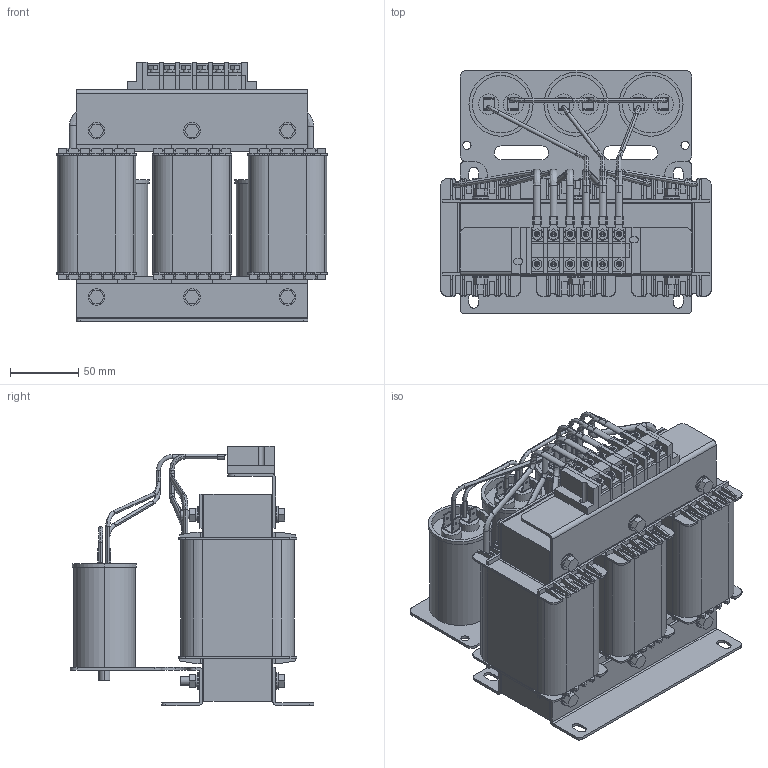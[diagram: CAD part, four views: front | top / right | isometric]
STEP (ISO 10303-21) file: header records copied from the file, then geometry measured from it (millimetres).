
FILE_DESCRIPTION (( 'STEP AP203' ), '1' );
FILE_NAME ('蔓躅漤铋 耔眢耥 翳朦蝠 _ ISINOF-5.5_13-4.STEP', '2026-07-16T09:49:50', ( '' ), ( '' ), 'SwSTEP 2.0', 'SolidWorks 2021', '' );
FILE_SCHEMA (( 'CONFIG_CONTROL_DESIGN' ));
Length unit declared in the file: inch
Products named in the file (166): 5.5KW滤波电抗器380V50Hz_97; 5.5KW滤波电抗器380V50Hz_121; 5.5KW滤波电抗器380V50Hz_16; 5.5KW滤波电抗器380V50Hz_36; 5.5KW滤波电抗器380V50Hz_147; 5.5KW滤波电抗器380V50Hz_39; 5.5KW滤波电抗器380V50Hz_134; 5.5KW滤波电抗器380V50Hz_7; 5.5KW滤波电抗器380V50Hz_72; 5.5KW滤波电抗器380V50Hz_159; 5.5KW滤波电抗器380V50Hz_50; 5.5KW滤波电抗器380V50Hz_3; 5.5KW滤波电抗器380V50Hz_28; 5.5KW滤波电抗器380V50Hz_116; 蔓躅漤铋 耔眢耥 翳朦蝠 _ ISINOF-5.5_13-4; 5.5KW滤波电抗器380V50Hz_92; 5.5KW滤波电抗器380V50Hz_61; 5.5KW滤波电抗器380V50Hz_9; 5.5KW滤波电抗器380V50Hz_14; 5.5KW滤波电抗器380V50Hz_94; 5.5KW滤波电抗器380V50Hz_8; 5.5KW滤波电抗器380V50Hz_46; 5.5KW滤波电抗器380V50Hz_1; 5.5KW滤波电抗器380V50Hz_144; 5.5KW滤波电抗器380V50Hz_124; 5.5KW滤波电抗器380V50Hz_115; 5.5KW滤波电抗器380V50Hz_103; 5.5KW滤波电抗器380V50Hz_100; 5.5KW滤波电抗器380V50Hz_143; 5.5KW滤波电抗器380V50Hz_52; 5.5KW滤波电抗器380V50Hz_12; 5.5KW滤波电抗器380V50Hz_91; 5.5KW滤波电抗器380V50Hz_98; 5.5KW滤波电抗器380V50Hz_51; 5.5KW滤波电抗器380V50Hz_153; 5.5KW滤波电抗器380V50Hz_74; 5.5KW滤波电抗器380V50Hz_99; 5.5KW滤波电抗器380V50Hz_15; 5.5KW滤波电抗器380V50Hz_48; 5.5KW滤波电抗器380V50Hz_81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
Assembly tree (165 placements, depth 2):
  蔓躅漤铋 耔眢耥 翳朦蝠 _ ISINOF-5.5_13-4
    5.5KW滤波电抗器380V50Hz_107
    5.5KW滤波电抗器380V50Hz_112
    5.5KW滤波电抗器380V50Hz_140
    5.5KW滤波电抗器380V50Hz_54
    5.5KW滤波电抗器380V50Hz_164
    5.5KW滤波电抗器380V50Hz_2
    5.5KW滤波电抗器380V50Hz_124
    5.5KW滤波电抗器380V50Hz_135
    5.5KW滤波电抗器380V50Hz_158
    5.5KW滤波电抗器380V50Hz_40
    5.5KW滤波电抗器380V50Hz_142
    5.5KW滤波电抗器380V50Hz_76
    5.5KW滤波电抗器380V50Hz_38
    5.5KW滤波电抗器380V50Hz_75
    5.5KW滤波电抗器380V50Hz_130
    5.5KW滤波电抗器380V50Hz_74
    5.5KW滤波电抗器380V50Hz_80
    5.5KW滤波电抗器380V50Hz_96
    5.5KW滤波电抗器380V50Hz_20
    5.5KW滤波电抗器380V50Hz_77
    5.5KW滤波电抗器380V50Hz_79
    5.5KW滤波电抗器380V50Hz_27
    5.5KW滤波电抗器380V50Hz_98
    5.5KW滤波电抗器380V50Hz_70
    5.5KW滤波电抗器380V50Hz_91
    5.5KW滤波电抗器380V50Hz_83
    5.5KW滤波电抗器380V50Hz_128
    5.5KW滤波电抗器380V50Hz_57
    5.5KW滤波电抗器380V50Hz_45
    5.5KW滤波电抗器380V50Hz_24
    5.5KW滤波电抗器380V50Hz_95
    5.5KW滤波电抗器380V50Hz_35
    5.5KW滤波电抗器380V50Hz_127
    5.5KW滤波电抗器380V50Hz_120
    5.5KW滤波电抗器380V50Hz_134
    5.5KW滤波电抗器380V50Hz_14
    5.5KW滤波电抗器380V50Hz
    5.5KW滤波电抗器380V50Hz_41
    5.5KW滤波电抗器380V50Hz_147
    5.5KW滤波电抗器380V50Hz_137
    5.5KW滤波电抗器380V50Hz_86
    5.5KW滤波电抗器380V50Hz_87
    5.5KW滤波电抗器380V50Hz_92
    5.5KW滤波电抗器380V50Hz_105
    5.5KW滤波电抗器380V50Hz_43
    5.5KW滤波电抗器380V50Hz_110
    5.5KW滤波电抗器380V50Hz_126
    5.5KW滤波电抗器380V50Hz_160
    5.5KW滤波电抗器380V50Hz_11
    5.5KW滤波电抗器380V50Hz_93
    5.5KW滤波电抗器380V50Hz_23
    5.5KW滤波电抗器380V50Hz_154
    5.5KW滤波电抗器380V50Hz_132
    5.5KW滤波电抗器380V50Hz_161
    5.5KW滤波电抗器380V50Hz_68
    5.5KW滤波电抗器380V50Hz_49
    5.5KW滤波电抗器380V50Hz_162
    5.5KW滤波电抗器380V50Hz_31
    5.5KW滤波电抗器380V50Hz_88
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Bounding box: 198.53 x 178.5 x 190 mm (x, y, z)
Volume: 2225814.2 mm3; surface area: 651266.2 mm2
Topology: 165 solids, 165 shells, 2512 faces, 6341 edges, 4184 vertices
Faces by surface type: plane 1737, cylinder 641, bspline 84, torus 26, cone 24
Entity records: 97199 total; most frequent: CARTESIAN_POINT 18413, ORIENTED_EDGE 12682, DIRECTION 12203, EDGE_CURVE 6341, LINE 4735, VECTOR 4735, VERTEX_POINT 4184, AXIS2_PLACEMENT_3D 3734
